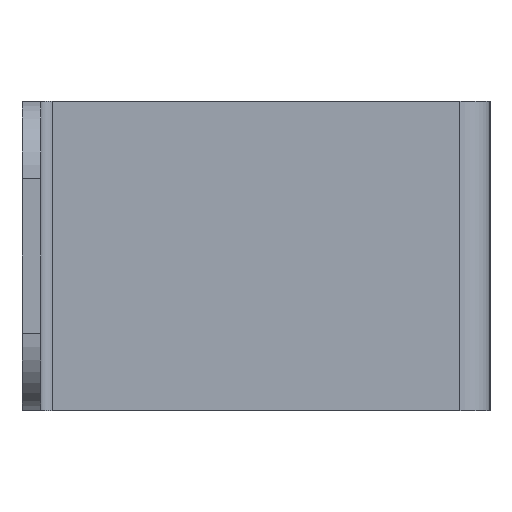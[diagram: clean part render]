
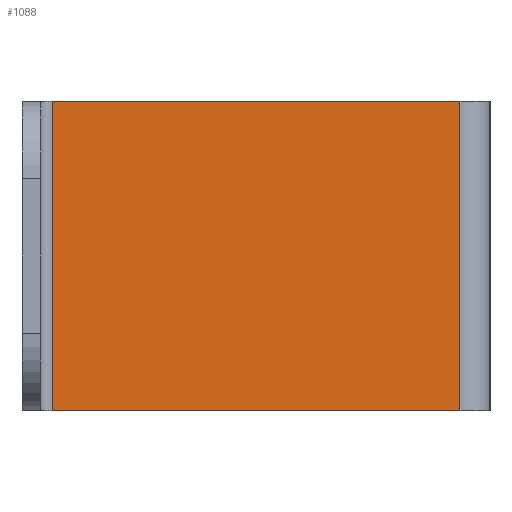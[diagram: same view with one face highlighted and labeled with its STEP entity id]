
A CAD part, left-side view. The second image highlights one B-rep face of the part: STEP entity #1088.
In plain terms, the highlighted planar face has unit normal (-1, 0, 0).
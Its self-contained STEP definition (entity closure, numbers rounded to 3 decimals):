
#4 = FACE_OUTER_BOUND ( 'NONE', #44, .T. ) ;
#17 = DIRECTION ( 'NONE',  ( 0., 0., 1. ) ) ;
#44 = EDGE_LOOP ( 'NONE', ( #782, #1214, #1175, #813 ) ) ;
#95 = VECTOR ( 'NONE', #985, 1000. ) ;
#140 = CARTESIAN_POINT ( 'NONE',  ( -44.5, 1.937, -10. ) ) ;
#156 = DIRECTION ( 'NONE',  ( 0., 1., 0. ) ) ;
#267 = EDGE_CURVE ( 'NONE', #1121, #699, #547, .T. ) ;
#321 = LINE ( 'NONE', #624, #594 ) ;
#323 = CARTESIAN_POINT ( 'NONE',  ( -44.5, 28.263, 10. ) ) ;
#406 = CARTESIAN_POINT ( 'NONE',  ( -44.5, 28.263, 10. ) ) ;
#466 = EDGE_CURVE ( 'NONE', #794, #699, #321, .T. ) ;
#509 = CARTESIAN_POINT ( 'NONE',  ( -44.5, 29., 10. ) ) ;
#547 = LINE ( 'NONE', #323, #932 ) ;
#594 = VECTOR ( 'NONE', #707, 1000. ) ;
#624 = CARTESIAN_POINT ( 'NONE',  ( -44.5, 29., -10. ) ) ;
#699 = VERTEX_POINT ( 'NONE', #1218 ) ;
#707 = DIRECTION ( 'NONE',  ( 0., 1., 0. ) ) ;
#782 = ORIENTED_EDGE ( 'NONE', *, *, #466, .F. ) ;
#788 = EDGE_CURVE ( 'NONE', #928, #794, #1014, .T. ) ;
#794 = VERTEX_POINT ( 'NONE', #140 ) ;
#813 = ORIENTED_EDGE ( 'NONE', *, *, #267, .T. ) ;
#826 = VECTOR ( 'NONE', #156, 1000. ) ;
#832 = CARTESIAN_POINT ( 'NONE',  ( -44.5, 1.937, 10. ) ) ;
#874 = AXIS2_PLACEMENT_3D ( 'NONE', #509, #1101, #17 ) ;
#923 = CARTESIAN_POINT ( 'NONE',  ( -44.5, 29., 10. ) ) ;
#928 = VERTEX_POINT ( 'NONE', #832 ) ;
#932 = VECTOR ( 'NONE', #1025, 1000. ) ;
#985 = DIRECTION ( 'NONE',  ( 0., 0., -1. ) ) ;
#1014 = LINE ( 'NONE', #1087, #95 ) ;
#1025 = DIRECTION ( 'NONE',  ( 0., 0., -1. ) ) ;
#1087 = CARTESIAN_POINT ( 'NONE',  ( -44.5, 1.937, 10. ) ) ;
#1088 = ADVANCED_FACE ( 'NONE', ( #4 ), #1107, .T. ) ;
#1101 = DIRECTION ( 'NONE',  ( -1., 0., 0. ) ) ;
#1107 = PLANE ( 'NONE',  #874 ) ;
#1113 = LINE ( 'NONE', #923, #826 ) ;
#1121 = VERTEX_POINT ( 'NONE', #406 ) ;
#1175 = ORIENTED_EDGE ( 'NONE', *, *, #1220, .T. ) ;
#1214 = ORIENTED_EDGE ( 'NONE', *, *, #788, .F. ) ;
#1218 = CARTESIAN_POINT ( 'NONE',  ( -44.5, 28.263, -10. ) ) ;
#1220 = EDGE_CURVE ( 'NONE', #928, #1121, #1113, .T. ) ;
